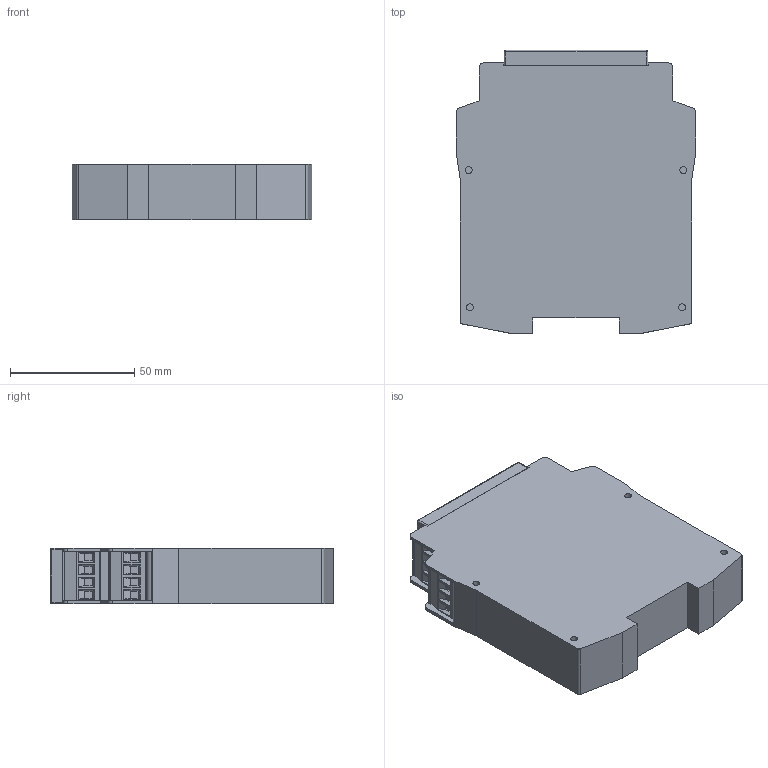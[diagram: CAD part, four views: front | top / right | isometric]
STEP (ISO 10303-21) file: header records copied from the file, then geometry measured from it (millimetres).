
FILE_DESCRIPTION(/* description */ (''),/* implementation_level */ '2;1');
FILE_NAME(/* name */ 'R1_188_0508_1_E_AA.stp',/* time_stamp */ '2016-04-20T08:44:49+02:00',/* author */ (''),/* organization */ (''),/* preprocessor_version */ 'ST-DEVELOPER v15',/* originating_system */ 'SIEMENS PLM Software NX 9.0',/* authorisation */ '');
FILE_SCHEMA (('AP203_CONFIGURATION_CONTROLLED_3D_DESIGN_OF_MECHANICAL_PARTS_AND_ASSEMBLIES_MIM_LF { 1 0 10303 403 2 1 2}'));
Length unit declared in the file: millimetre
Products named in the file (1): R1_188_0508_1_E_AA
Bounding box: 96.5 x 114 x 22.5 mm (x, y, z)
Volume: 218236 mm3; surface area: 35205.3 mm2
Topology: 1 solids, 7 shells, 471 faces, 1165 edges, 746 vertices
Faces by surface type: plane 409, cylinder 58, sphere 4
Full cylindrical faces by diameter (mm): 2.8 x8, 4 x16, 5 x2
Entity records: 16228 total; most frequent: CARTESIAN_POINT 2321, ORIENTED_EDGE 2238, DIRECTION 2231, EDGE_CURVE 1119, LINE 951, VECTOR 951, VERTEX_POINT 730, AXIS2_PLACEMENT_3D 640
